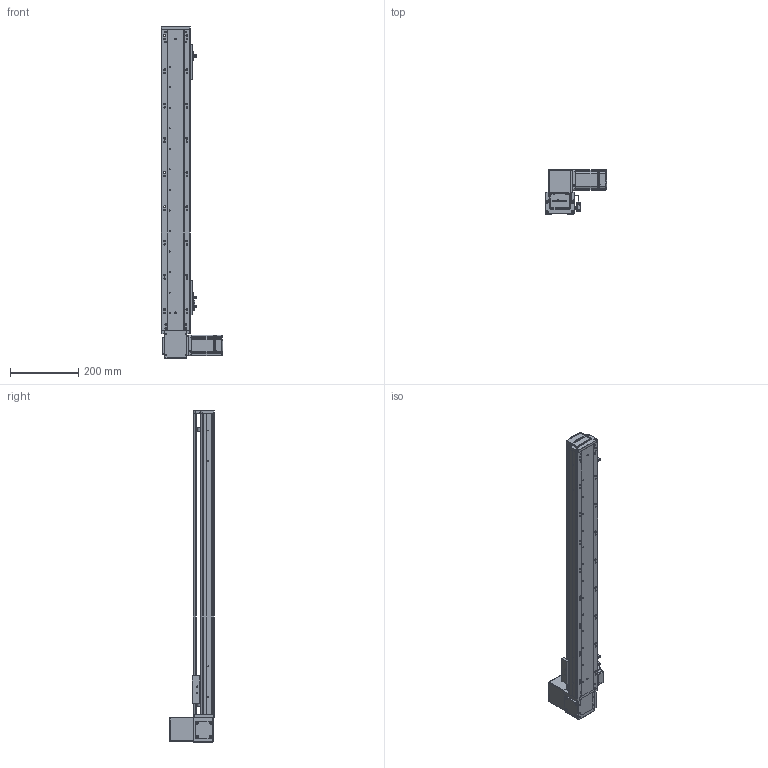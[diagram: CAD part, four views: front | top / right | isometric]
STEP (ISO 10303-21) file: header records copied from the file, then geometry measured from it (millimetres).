
FILE_DESCRIPTION (( 'STEP AP203' ), '1' );
FILE_NAME ('RY80-T-300-UR.SLDASM_700.step', '2021-03-01T02:26:14', ( '盈信电脑' ), ( '东莞市道滘镇水果街19号' ), 'SwSTEP 2.0', 'SolidWorks 2012', '' );
FILE_SCHEMA (( 'CONFIG_CONTROL_DESIGN' ));
Length unit declared in the file: millimetre
Products named in the file (20): RY80-T綴裔啣; RY80-T-300-UR倰第奻裔啣_700; RY80-T肮祭謫臏賑輸; RY80-T-300-UR倰第菁釱_700; 672嫖萇羲壽假蚾釱; RY80-T-翋肮祭謫釱; RY80俋离覜茼え; 覜茼ん672; RY80-T萇儂假蚾啣; RY80-T-M4蹟翐2; RY80-T-300-UR.SLDASM_700; 1; RY80-T翋肮祭謫裔啣; RY80-T肮祭謫奻殏俋欶; RY80-T-上下折同步轮盖板; RY100-T粣創揤踡裔; 滅袉蝶18-10; RY80-T粣創揤踡輸; RY80-T肮祭湍揤輸1; RY80-T肮祭湍揤輸2
Assembly tree (23 placements, depth 2):
  RY80-T-300-UR.SLDASM_700
    RY80-T-300-UR倰第菁釱_700
    RY80-T肮祭謫臏賑輸
    RY80-T-300-UR倰第奻裔啣_700
    RY80-T綴裔啣
    672嫖萇羲壽假蚾釱  x2
    覜茼ん672  x3
    RY80俋离覜茼え
    RY80-T-翋肮祭謫釱
    RY80-T肮祭湍揤輸1
    RY80-T肮祭湍揤輸2
    RY80-T粣創揤踡輸
    滅袉蝶18-10  x2
    RY100-T粣創揤踡裔
    RY80-T翋肮祭謫裔啣
    RY80-T-上下折同步轮盖板
    1
    RY80-T肮祭謫奻殏俋欶
    RY80-T-M4蹟翐2
    RY80-T萇儂假蚾啣
Bounding box: 180 x 130.5 x 970 mm (x, y, z)
Volume: 1798851.9 mm3; surface area: 742260.1 mm2
Topology: 23 solids, 23 shells, 2549 faces, 7041 edges, 4576 vertices
Faces by surface type: plane 1355, cylinder 996, cone 142, bspline 56
Entity records: 82058 total; most frequent: CARTESIAN_POINT 20264, ORIENTED_EDGE 12726, DIRECTION 11900, EDGE_CURVE 6363, VERTEX_POINT 4180, AXIS2_PLACEMENT_3D 4020, VECTOR 3860, LINE 3860
